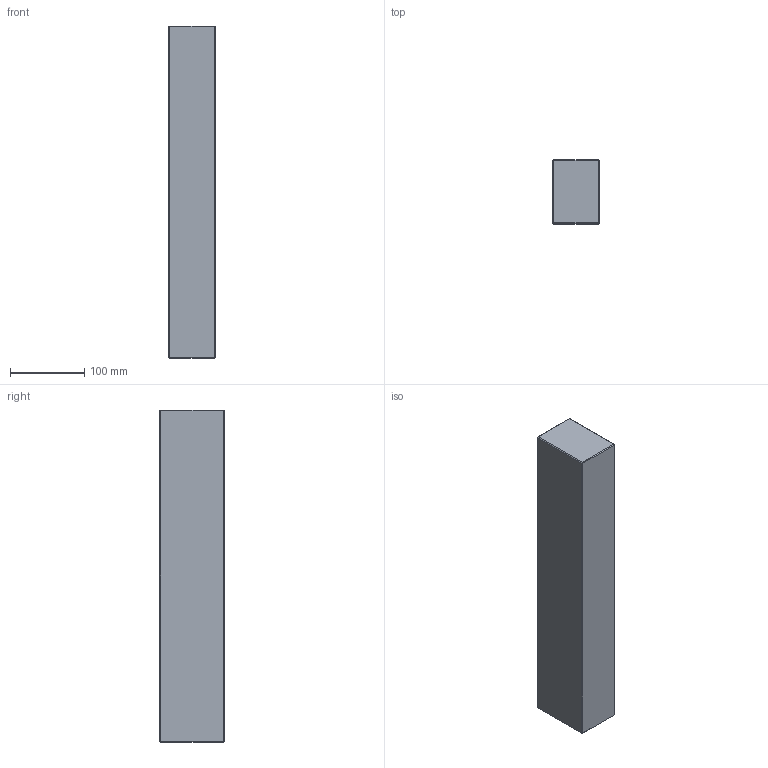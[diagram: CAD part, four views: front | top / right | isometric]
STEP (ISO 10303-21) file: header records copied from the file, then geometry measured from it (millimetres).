
FILE_DESCRIPTION (( 'STEP AP214' ), '1' );
FILE_NAME ('ESP-P-446X446x86.STEP', '2020-04-08T11:30:31', ( 'August' ), ( '' ), 'SwSTEP 2.0', 'SolidWorks 2018', '' );
FILE_SCHEMA (( 'AUTOMOTIVE_DESIGN' ));
Length unit declared in the file: millimetre
Products named in the file (1): ESP-P-446X446x86
Bounding box: 62 x 86 x 446 mm (x, y, z)
Volume: 2376889.3 mm3; surface area: 141285.2 mm2
Topology: 1 solids, 1 shells, 26 faces, 48 edges, 24 vertices
Faces by surface type: plane 26
Entity records: 634 total; most frequent: DIRECTION 102, CARTESIAN_POINT 99, ORIENTED_EDGE 96, EDGE_CURVE 48, VECTOR 48, LINE 48, AXIS2_PLACEMENT_3D 27, EDGE_LOOP 26
